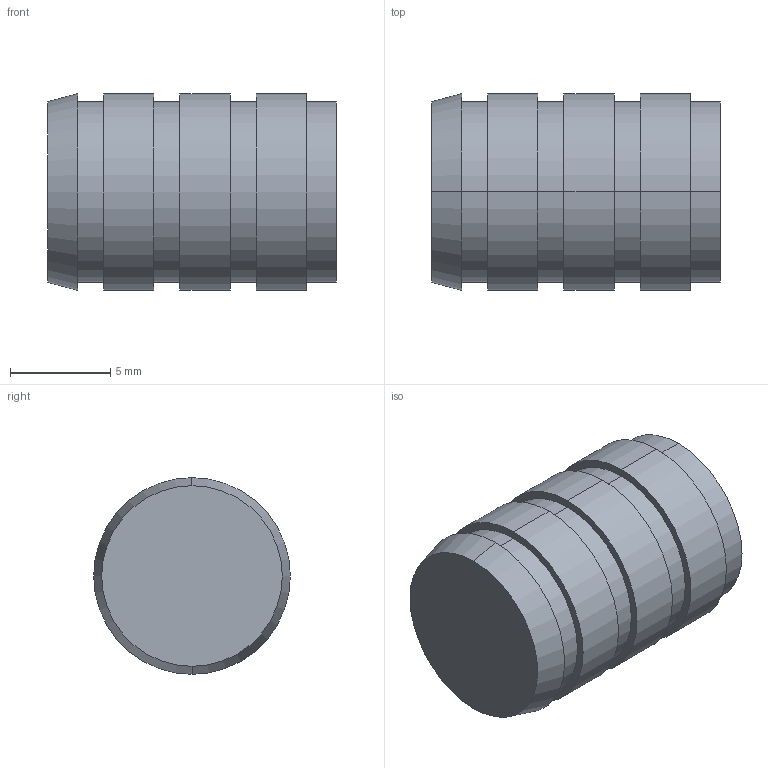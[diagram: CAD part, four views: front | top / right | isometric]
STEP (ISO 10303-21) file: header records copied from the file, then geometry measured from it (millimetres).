
FILE_DESCRIPTION (( 'STEP AP203' ), '1' );
FILE_NAME ('FSUK-BLD-M06-S.STEP', '2021-04-15T19:29:40', ( '' ), ( '' ), 'SwSTEP 2.0', 'SolidWorks 2021', '' );
FILE_SCHEMA (( 'CONFIG_CONTROL_DESIGN' ));
Length unit declared in the file: millimetre
Products named in the file (1): FSUK-BLD-M06-S
Bounding box: 14.4 x 9.8 x 9.8 mm (x, y, z)
Volume: 725.1 mm3; surface area: 842.6 mm2
Topology: 1 solids, 1 shells, 33 faces, 66 edges, 41 vertices
Faces by surface type: cylinder 18, plane 9, cone 6
Entity records: 935 total; most frequent: DIRECTION 172, CARTESIAN_POINT 139, ORIENTED_EDGE 128, AXIS2_PLACEMENT_3D 74, EDGE_CURVE 64, EDGE_LOOP 41, VERTEX_POINT 41, CIRCLE 40
